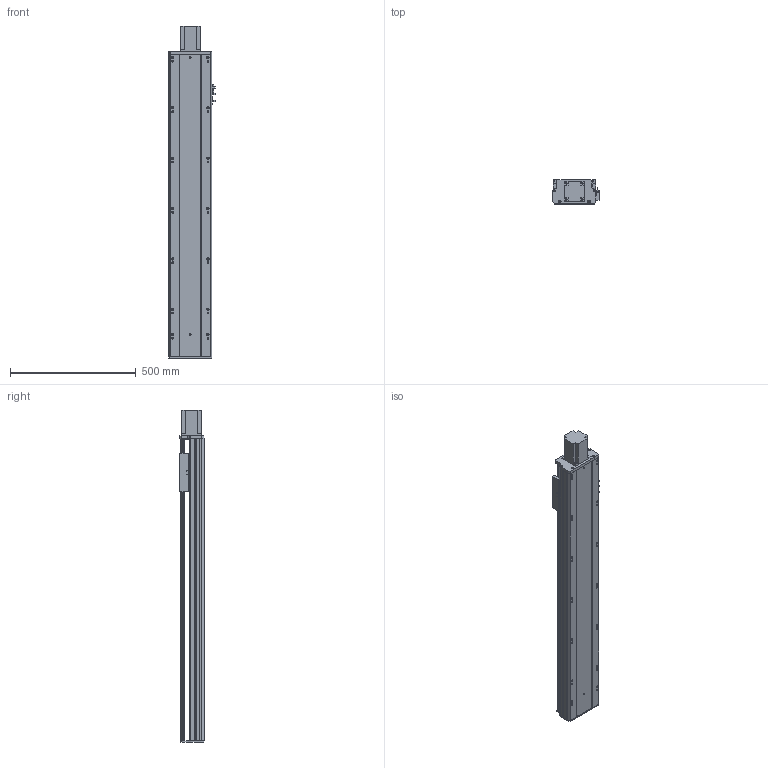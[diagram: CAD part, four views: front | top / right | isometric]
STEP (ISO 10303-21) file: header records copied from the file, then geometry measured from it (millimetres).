
FILE_DESCRIPTION (( 'STEP AP203' ), '1' );
FILE_NAME ('Y170-D10-S950-BD-P750W.STEP', '2020-01-22T07:03:47', ( '微软用户' ), ( '微软中国' ), 'SwSTEP 2.0', 'SolidWorks 2017', '' );
FILE_SCHEMA (( 'CONFIG_CONTROL_DESIGN' ));
Length unit declared in the file: millimetre
Products named in the file (10): 侂狟750W; Y170耜裔--準---; Y170-陔遴奻裔-BD; Y170--雄赽釱-梓--; YD-Y100-135-新外置传感挡片(通用）; Y170-D10-S950-BD-P750W; Y100-135俋离換覜ん; 170--掛极-BD; Y170-萇儂楊擘啣--; 135-盓傅釱-FK15
Assembly tree (11 placements, depth 2):
  Y170-D10-S950-BD-P750W
    YD-Y100-135-新外置传感挡片(通用）
    Y100-135俋离換覜ん  x3
    170--掛极-BD
    Y170-萇儂楊擘啣--
    135-盓傅釱-FK15
    侂狟750W
    Y170耜裔--準---
    Y170-陔遴奻裔-BD
    Y170--雄赽釱-梓--
Bounding box: 183.5 x 97 x 1318.5 mm (x, y, z)
Volume: 5662969.1 mm3; surface area: 1903864.5 mm2
Topology: 11 solids, 11 shells, 828 faces, 2355 edges, 1560 vertices
Faces by surface type: cylinder 438, plane 388, torus 2
Entity records: 26991 total; most frequent: CARTESIAN_POINT 4843, DIRECTION 4505, ORIENTED_EDGE 4374, EDGE_CURVE 2187, AXIS2_PLACEMENT_3D 1622, VERTEX_POINT 1448, VECTOR 1261, LINE 1261
